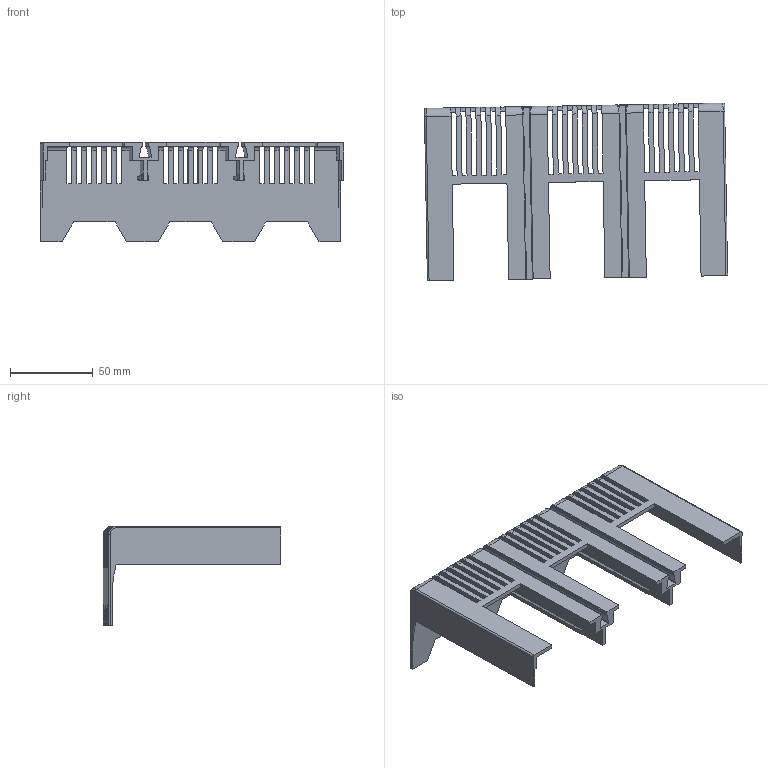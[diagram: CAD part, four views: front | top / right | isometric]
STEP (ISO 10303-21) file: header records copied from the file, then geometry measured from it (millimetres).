
FILE_DESCRIPTION (( 'STEP AP214' ), '1' );
FILE_NAME ('!TGM1NE-630-3p big size 孰屐祉 牮觇.STEP', '2025-12-10T13:28:22', ( '' ), ( '' ), 'SwSTEP 2.0', 'SolidWorks 2024', '' );
FILE_SCHEMA (( 'AUTOMOTIVE_DESIGN' ));
Length unit declared in the file: millimetre
Products named in the file (3): 630DATIJI_1_1.stp; !TGM1NE-630-3p big size Клеммные крышки; !TGM1NE-630-3p big size Клеммные крышки.stp
Assembly tree (2 placements, depth 3):
  !TGM1NE-630-3p big size Клеммные крышки
    !TGM1NE-630-3p big size Клеммные крышки.stp
      630DATIJI_1_1.stp
Bounding box: 182.77 x 107.13 x 60 mm (x, y, z)
Volume: 78379.3 mm3; surface area: 67380 mm2
Topology: 1 solids, 1 shells, 287 faces, 923 edges, 598 vertices
Faces by surface type: plane 176, cylinder 93, torus 10, bspline 4, sphere 4
Entity records: 10831 total; most frequent: CARTESIAN_POINT 2569, ORIENTED_EDGE 1834, DIRECTION 1621, EDGE_CURVE 917, VECTOR 715, LINE 715, VERTEX_POINT 596, AXIS2_PLACEMENT_3D 453
